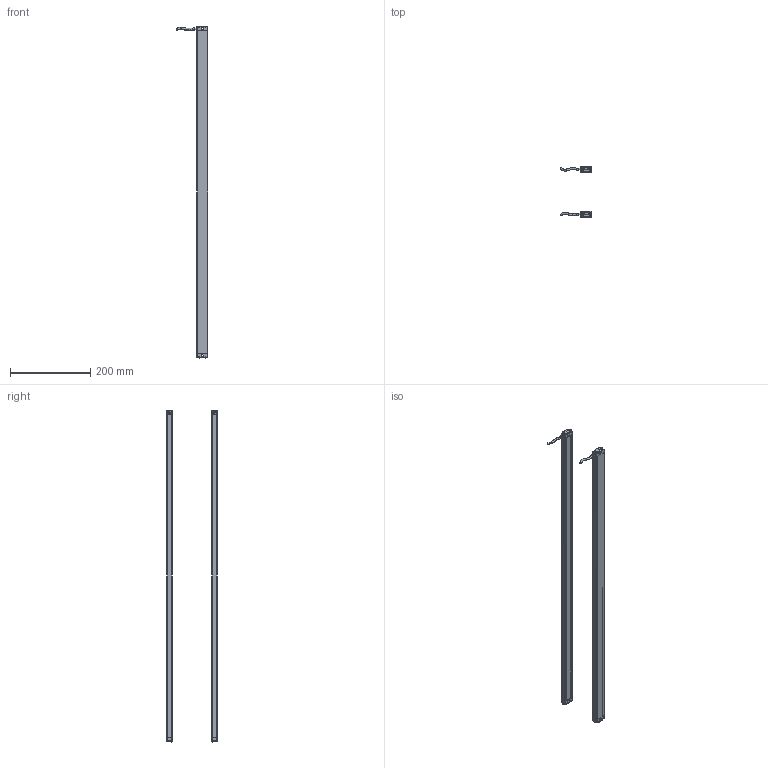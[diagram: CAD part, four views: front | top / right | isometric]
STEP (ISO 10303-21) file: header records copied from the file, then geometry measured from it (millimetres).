
FILE_DESCRIPTION(/* description */ (''),/* implementation_level */ '2;1');
FILE_NAME(/* name */ '2040（13x28w).stp',/* time_stamp */ '2020-07-14T20:12:06+08:00',/* author */ (''),/* organization */ (''),/* preprocessor_version */ 'ST-DEVELOPER v16',/* originating_system */ 'SIEMENS PLM Software NX 10.0',/* authorisation */ '');
FILE_SCHEMA (('AP203_CONFIGURATION_CONTROLLED_3D_DESIGN_OF_MECHANICAL_PARTS_AND_ASSEMBLIES_MIM_LF { 1 0 10303 403 2 1 2}'));
Length unit declared in the file: millimetre
Products named in the file (1): Admi58A03253m8bg
Bounding box: 79.6 x 125.02 x 826 mm (x, y, z)
Volume: 240503.1 mm3; surface area: 319548.5 mm2
Topology: 10 solids, 10 shells, 760 faces, 2150 edges, 1419 vertices
Faces by surface type: plane 356, cylinder 312, torus 52, bspline 40
Entity records: 28419 total; most frequent: CARTESIAN_POINT 8883, ORIENTED_EDGE 4300, DIRECTION 3785, EDGE_CURVE 2150, VERTEX_POINT 1419, AXIS2_PLACEMENT_3D 1285, LINE 1215, VECTOR 1215
